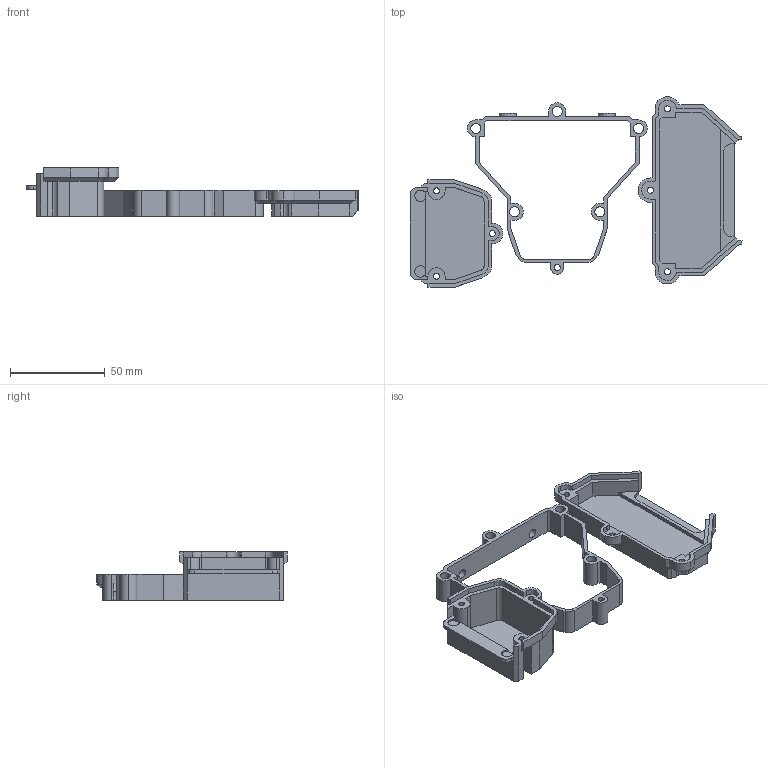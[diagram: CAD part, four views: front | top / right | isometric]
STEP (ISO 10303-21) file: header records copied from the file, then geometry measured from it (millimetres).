
FILE_DESCRIPTION(('STEP AP214'),'1');
FILE_NAME('goblin gear cover set.stp','2025-02-09T04:32:52',(' '),(' '),'Spatial InterOp 3D',' ',' ');
FILE_SCHEMA(('AUTOMOTIVE_DESIGN { 1 0 10303 214 1 1 1 1 }'));
Length unit declared in the file: millimetre
Products named in the file (1): 1
Bounding box: 175.38 x 100.83 x 25.5 mm (x, y, z)
Volume: 32936.8 mm3; surface area: 36497.8 mm2
Topology: 3 solids, 3 shells, 324 faces, 900 edges, 583 vertices
Faces by surface type: plane 216, cylinder 94, cone 12, bspline 2
Entity records: 10458 total; most frequent: CARTESIAN_POINT 1890, ORIENTED_EDGE 1800, DIRECTION 1758, EDGE_CURVE 900, LINE 676, VECTOR 676, VERTEX_POINT 583, AXIS2_PLACEMENT_3D 541
